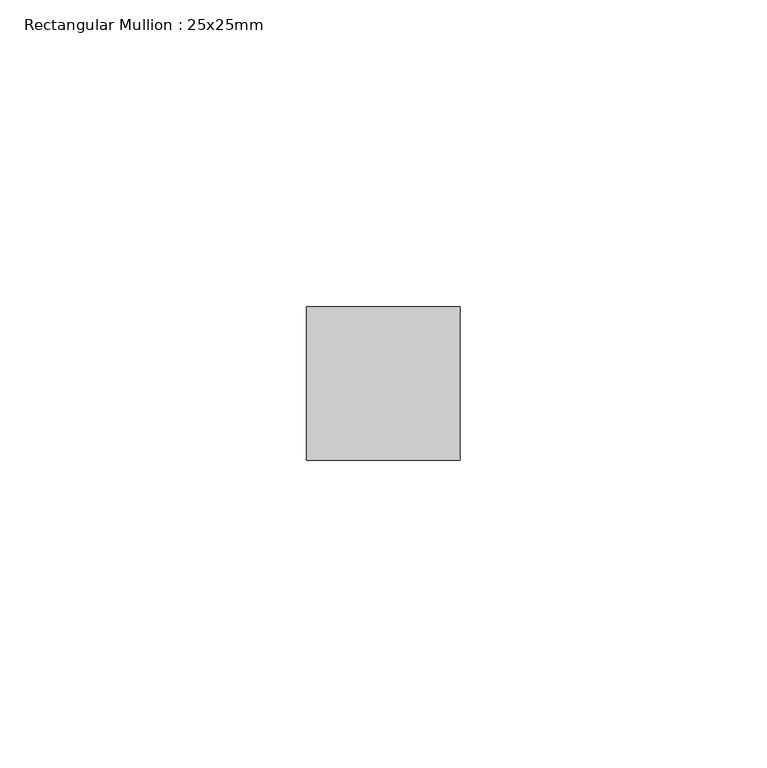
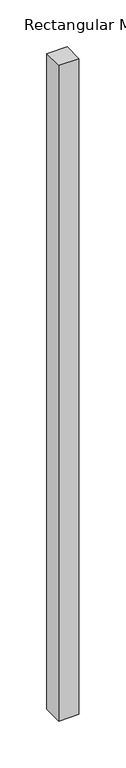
"""IFC4 building model written with IfcOpenShell, lengths in millimetres: member geometry, Rectangular Mullion : 25x25mm."""

from ifc_helpers import new_model, si_unit, frame, origin, place, context, project, spatial, polyline, outline, extrude, source, transform, mapped, element, save


def rectangular_mullion_25x25mm_da6cf454(model_context):
    return source(origin(), model_context, "Body", "SweptSolid", [
        extrude(outline(polyline([(0.0, 24.5), (0.0, -0.5), (-25.0, -0.5), (-25.0, 24.5), (0.0, 24.5)])), frame((0.0, 0.0, -853.1249998), z_axis=(0.0, 0.0, 1.0), x_axis=(1.0, 0.0, 0.0)), (0.0, 0.0, 1.0), 853.1249998),
    ])


if __name__ == "__main__":
    model = new_model("IFC4")
    model_context = context("Model", 3, world=origin())
    ifc_project = project(units=[si_unit("LENGTHUNIT", "METRE", prefix="MILLI")], contexts=[model_context])
    site = spatial("IfcSite", under=ifc_project)
    building = spatial("IfcBuilding", under=site)
    placement = place(None, origin())
    rectangular_mullion_25x25mm_shape = rectangular_mullion_25x25mm_da6cf454(model_context)
    element("IfcMember", 1, ObjectType="Rectangular Mullion : 25x25mm", at=placement, inside=building, context=model_context, shape_type="MappedRepresentation", body=[
        mapped(rectangular_mullion_25x25mm_shape, transform((0.0, 0.0, 0.0), x_axis=(1.0, 0.0, 0.0), y_axis=(0.0, 1.0, 0.0), z_axis=(0.0, 0.0, 1.0))),
    ])
    save(model, "model.ifc")
